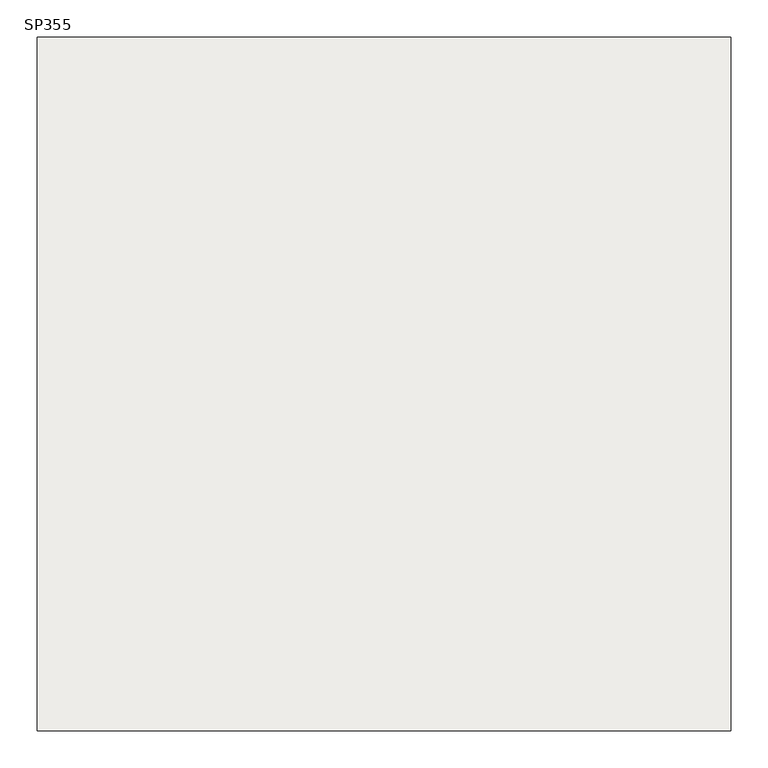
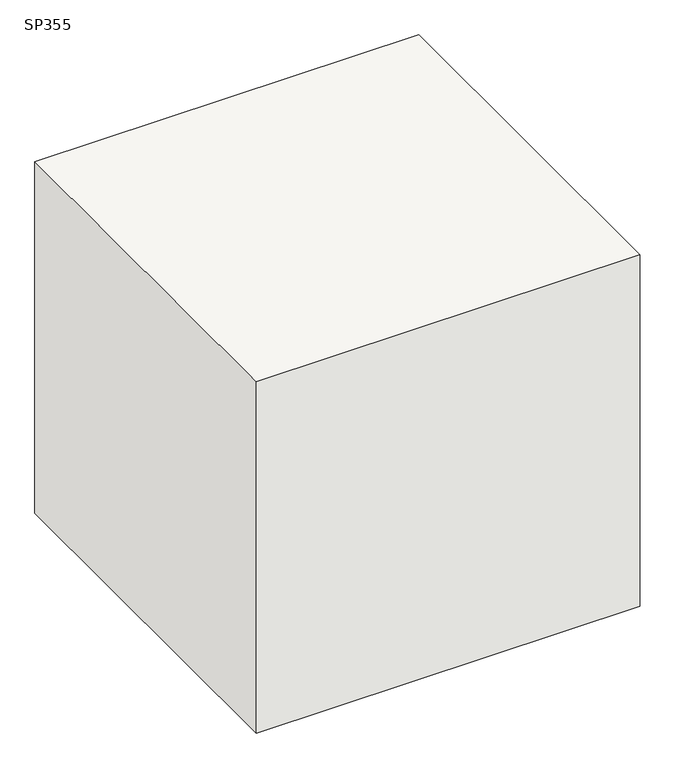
"""IFC4 building model written with IfcOpenShell, lengths in millimetres: slab geometry, 柱形_SP : SP355."""

import ifcopenshell
import ifcopenshell.guid

model = None  # the IFC model being written
_history = None  # IfcOwnerHistory: only IFC2X3 demands one
_inside = {}  # id of a spatial element -> (the spatial element, [elements in it])
_under = {}  # id of a project, library or spatial element -> (it, [spatial elements below it])
_declared = {}  # id of a project -> (the project, [libraries it declares])
_typed = {}  # id of a type object -> (the type object, [elements of that type])
_made_of = {}  # id of a material, layer set ... -> (it, [elements and type objects made of it])


def new_model(schema):
    """Start an empty IFC model of exactly this schema.

    Asked for "IFC4X3", IfcOpenShell would pick the latest addendum, in which some entities
    have other attributes; the version numbers below select the first issue.
    IFC2X3 requires an IfcOwnerHistory on every rooted entity: one is made here for all.
    """
    global model, _history
    if schema == "IFC4X3":
        model = ifcopenshell.file(schema_version=(4, 3, 0, 0))
    else:
        model = ifcopenshell.file(schema=schema)
    _inside.clear()
    _under.clear()
    _declared.clear()
    _typed.clear()
    _made_of.clear()
    _history = None
    if model.schema == "IFC2X3":
        org = make("IfcOrganization", Name="unknown")
        user = make(
            "IfcPersonAndOrganization",
            ThePerson=make("IfcPerson", FamilyName="unknown"),
            TheOrganization=org,
        )
        app = make(
            "IfcApplication",
            ApplicationDeveloper=org,
            Version="unknown",
            ApplicationFullName="unknown",
            ApplicationIdentifier="unknown",
        )
        _history = make(
            "IfcOwnerHistory",
            OwningUser=user,
            OwningApplication=app,
            ChangeAction="ADDED",
            CreationDate=0,
        )
    return model


def make(cls, **values):
    """One entity of the class cls with the attributes given. An attribute that is None is left unset."""
    return model.create_entity(
        cls, **{name: value for name, value in values.items() if value is not None}
    )


def rooted(cls, **values):
    """An entity with a GlobalId (a new one), such as an element, a storey or a relation."""
    return make(cls, GlobalId=ifcopenshell.guid.new(), OwnerHistory=_history, **values)


def si_unit(unit_type, name, prefix=None):
    """IfcSIUnit, for example si_unit("LENGTHUNIT", "METRE", prefix="MILLI")."""
    return make("IfcSIUnit", UnitType=unit_type, Prefix=prefix, Name=name)


def assignment(units):
    """IfcUnitAssignment: the units of a project."""
    return None if units is None else make("IfcUnitAssignment", Units=units)


def point(xyz):
    """IfcCartesianPoint."""
    return None if xyz is None else make("IfcCartesianPoint", Coordinates=xyz)


def direction(xyz):
    """IfcDirection."""
    return None if xyz is None else make("IfcDirection", DirectionRatios=xyz)


def frame(location, z_axis=None, x_axis=None):
    """IfcAxis2Placement3D, a coordinate frame: its origin and axes. An axis left out is left unset."""
    return make(
        "IfcAxis2Placement3D",
        Location=point(location),
        Axis=direction(z_axis),
        RefDirection=direction(x_axis),
    )


def origin():
    """The frame at (0, 0, 0) with its axes left unset."""
    return frame((0.0, 0.0, 0.0))


def place(relative_to, where):
    """IfcLocalPlacement: puts the frame where relative to a parent placement (None: the world)."""
    return make(
        "IfcLocalPlacement", PlacementRelTo=relative_to, RelativePlacement=where
    )


def context(
    kind, dimensions, precision=None, world=None, true_north=None, identifier=None
):
    """IfcGeometricRepresentationContext, for example the 3D "Model" context."""
    return make(
        "IfcGeometricRepresentationContext",
        ContextIdentifier=identifier,
        ContextType=kind,
        CoordinateSpaceDimension=dimensions,
        Precision=precision,
        WorldCoordinateSystem=world,
        TrueNorth=true_north,
    )


def project(units=None, contexts=None):
    """IfcProject with its units and contexts."""
    return rooted(
        "IfcProject",
        Name="project",
        RepresentationContexts=contexts,
        UnitsInContext=assignment(units),
    )


def spatial(cls, under=None, at=None, **own):
    """A site, building, storey or space (cls), placed at a placement, below another one or the project."""
    s = rooted(cls, ObjectPlacement=at, **own)
    if under is not None:
        _under.setdefault(under.id(), (under, []))[1].append(s)
    return s


def polyline(points):
    """IfcPolyline through the points."""
    return make("IfcPolyline", Points=[point(p) for p in points])


def outline(outer, holes=None, kind="AREA"):
    """IfcArbitraryClosedProfileDef: a profile drawn as a closed curve; with holes, ...WithVoids."""
    if holes is None:
        return make("IfcArbitraryClosedProfileDef", ProfileType=kind, OuterCurve=outer)
    return make(
        "IfcArbitraryProfileDefWithVoids",
        ProfileType=kind,
        OuterCurve=outer,
        InnerCurves=holes,
    )


def extrude(swept, where, along, depth):
    """IfcExtrudedAreaSolid: the profile swept, set in the frame where, extruded along a direction by depth."""
    return make(
        "IfcExtrudedAreaSolid",
        SweptArea=swept,
        Position=where,
        ExtrudedDirection=direction(along),
        Depth=depth,
    )


def shape(context_of_items, identifier, shape_type, items):
    """IfcShapeRepresentation: the items that make up one representation, for example the "Body"."""
    return make(
        "IfcShapeRepresentation",
        ContextOfItems=context_of_items,
        RepresentationIdentifier=identifier,
        RepresentationType=shape_type,
        Items=items,
    )


def source(mapping_origin, context_of_items, identifier, shape_type, items):
    """IfcRepresentationMap: a shape defined once, which mapped items show again and again."""
    return make(
        "IfcRepresentationMap",
        MappingOrigin=mapping_origin,
        MappedRepresentation=shape(context_of_items, identifier, shape_type, items),
    )


def transform(
    local_origin,
    x_axis=None,
    y_axis=None,
    z_axis=None,
    scale=None,
    scale2=None,
    scale3=None,
    uniform=True,
):
    """IfcCartesianTransformationOperator3D, or its non-uniform kind. x_axis, y_axis, z_axis: its Axis1, 2, 3."""
    if uniform:
        return make(
            "IfcCartesianTransformationOperator3D",
            Axis1=direction(x_axis),
            Axis2=direction(y_axis),
            LocalOrigin=point(local_origin),
            Scale=scale,
            Axis3=direction(z_axis),
        )
    return make(
        "IfcCartesianTransformationOperator3DnonUniform",
        Axis1=direction(x_axis),
        Axis2=direction(y_axis),
        LocalOrigin=point(local_origin),
        Scale=scale,
        Axis3=direction(z_axis),
        Scale2=scale2,
        Scale3=scale3,
    )


def mapped(mapping_source, mapping_target):
    """IfcMappedItem: shows the shape of a source again, moved by a transform."""
    return make(
        "IfcMappedItem", MappingSource=mapping_source, MappingTarget=mapping_target
    )


def made_of(thing, what):
    """Note that an element or type object is made of a material, layer set ...; save() writes the relation."""
    if what is not None:
        _made_of.setdefault(what.id(), (what, []))[1].append(thing)
    return thing


def element(
    cls,
    number,
    at=None,
    inside=None,
    cuts=None,
    type_object=None,
    material=None,
    context=None,
    identifier="Body",
    shape_type=None,
    held_by="IfcProductDefinitionShape",
    body=None,
    shapes=None,
    **own,
):
    """One element of the class cls, such as IfcWall. Its Tag is "e" and its number.

    at: its placement. inside: the storey or other place that contains it. cuts: it is an
    opening in that element (IfcRelVoidsElement). A single representation is given by context,
    identifier, shape_type and body (its items); several are given by shapes. held_by: the class
    of the entity that holds the representations. save() writes the other relations.
    """
    e = rooted(cls, Tag="e%d" % number, ObjectPlacement=at, **own)
    if body is not None:
        shapes = [shape(context, identifier, shape_type, body)]
    if shapes is not None:
        e.Representation = make(held_by, Representations=shapes)
    if inside is not None:
        _inside.setdefault(inside.id(), (inside, []))[1].append(e)
    if cuts is not None:
        rooted(
            "IfcRelVoidsElement", RelatingBuildingElement=cuts, RelatedOpeningElement=e
        )
    if type_object is not None:
        _typed.setdefault(type_object.id(), (type_object, []))[1].append(e)
    return made_of(e, material)


def aggregate(whole, parts):
    """IfcRelAggregates: a whole, such as a stair, and the parts it consists of."""
    return rooted("IfcRelAggregates", RelatingObject=whole, RelatedObjects=parts)


def save(model, path):
    """Write the relations noted so far, then the file.

    IfcRelAggregates (storeys below a building ...), IfcRelContainedInSpatialStructure (elements
    in a storey), IfcRelDefinesByType, IfcRelAssociatesMaterial and IfcRelDeclares: one each for
    every whole, place, type object, material and project.
    """
    for whole, parts in _under.values():
        aggregate(whole, parts)
    for where, things in _inside.values():
        rooted(
            "IfcRelContainedInSpatialStructure",
            RelatedElements=things,
            RelatingStructure=where,
        )
    for kind, things in _typed.values():
        rooted("IfcRelDefinesByType", RelatedObjects=things, RelatingType=kind)
    for what, things in _made_of.values():
        rooted("IfcRelAssociatesMaterial", RelatedObjects=things, RelatingMaterial=what)
    for by, libraries in _declared.values():
        rooted("IfcRelDeclares", RelatingContext=by, RelatedDefinitions=libraries)
    model.write(path)


def sp355_42aa3880(model_context):
    return source(origin(), model_context, "Body", "SweptSolid", [
        extrude(outline(polyline([(465.0, 465.0), (465.0, -465.0), (-465.0, -465.0), (-465.0, 465.0), (465.0, 465.0)])), frame((0.0, 0.0, -900.0), z_axis=(0.0, 0.0, 1.0), x_axis=(1.0, 0.0, 0.0)), (0.0, 0.0, 1.0), 900.0),
    ])


if __name__ == "__main__":
    model = new_model("IFC4")
    model_context = context("Model", 3, world=origin())
    ifc_project = project(units=[si_unit("LENGTHUNIT", "METRE", prefix="MILLI")], contexts=[model_context])
    site = spatial("IfcSite", under=ifc_project)
    building = spatial("IfcBuilding", under=site)
    placement = place(None, origin())
    sp355_shape = sp355_42aa3880(model_context)
    element("IfcSlab", 1, ObjectType="柱形_SP : SP355", at=placement, inside=building, context=model_context, shape_type="MappedRepresentation", body=[
        mapped(sp355_shape, transform((0.0, 0.0, 0.0), x_axis=(1.0, 0.0, 0.0), y_axis=(0.0, 1.0, 0.0), z_axis=(0.0, 0.0, 1.0))),
    ])
    save(model, "model.ifc")
